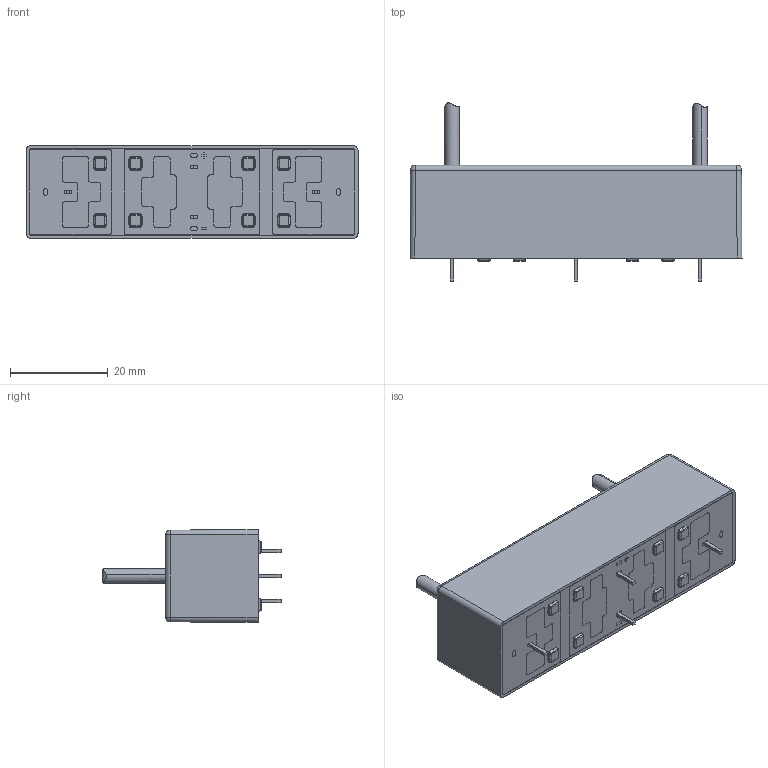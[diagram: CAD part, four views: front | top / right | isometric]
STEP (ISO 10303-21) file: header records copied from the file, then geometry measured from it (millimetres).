
FILE_DESCRIPTION (( 'STEP AP203' ), '1' );
FILE_NAME ('Series 600 - 620 1A or B FT-1.STEP', '2025-07-01T09:09:59', ( '' ), ( '' ), 'SwSTEP 2.0', 'SolidWorks 2023', '' );
FILE_SCHEMA (( 'CONFIG_CONTROL_DESIGN' ));
Length unit declared in the file: millimetre
Products named in the file (1): Series 600 - 620 1A or B FT-1
Bounding box: 68 x 36.49 x 19 mm (x, y, z)
Volume: 3221 mm3; surface area: 11839.4 mm2
Topology: 39 solids, 39 shells, 941 faces, 2408 edges, 1548 vertices
Faces by surface type: plane 439, cylinder 368, bspline 98, sphere 36
Entity records: 29305 total; most frequent: CARTESIAN_POINT 7338, ORIENTED_EDGE 4816, DIRECTION 4336, EDGE_CURVE 2408, VERTEX_POINT 1548, AXIS2_PLACEMENT_3D 1476, LINE 1384, VECTOR 1384
